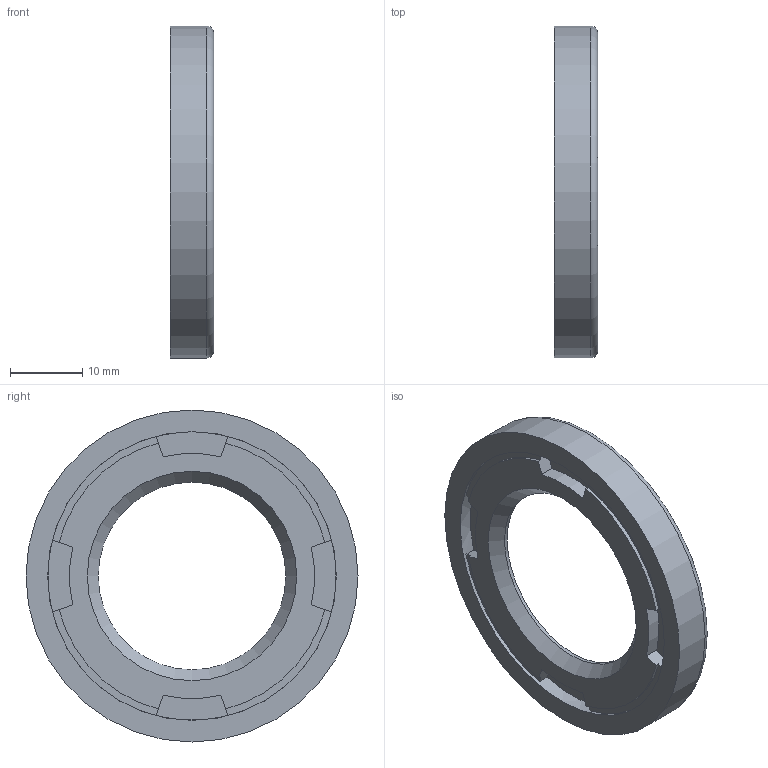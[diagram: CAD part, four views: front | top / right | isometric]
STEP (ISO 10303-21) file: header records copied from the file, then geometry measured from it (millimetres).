
FILE_DESCRIPTION(/* description */ (''),/* implementation_level */ '2;1');
FILE_NAME(/* name */ 'E:\Dropbox\Harjoitukset\Ignition coil\seal1.stp',/* time_stamp */ '2018-03-30T20:02:45+03:00',/* author */ ('Antti'),/* organization */ (''),/* preprocessor_version */ 'ST-DEVELOPER v17',/* originating_system */ 'Autodesk Inventor 2018',/* authorisation */ '');
FILE_SCHEMA (('AUTOMOTIVE_DESIGN { 1 0 10303 214 3 1 1 }'));
Length unit declared in the file: millimetre
Products named in the file (1): seal1
Bounding box: 6 x 46 x 46 mm (x, y, z)
Volume: 3934.1 mm3; surface area: 4020 mm2
Topology: 1 solids, 1 shells, 39 faces, 111 edges, 77 vertices
Faces by surface type: plane 21, cylinder 13, torus 4, cone 1
Full cylindrical faces by diameter (mm): 26 x1, 29 x1, 40 x1, 42 x1, 46 x1
Entity records: 1357 total; most frequent: DIRECTION 248, CARTESIAN_POINT 228, ORIENTED_EDGE 222, EDGE_CURVE 111, AXIS2_PLACEMENT_3D 97, VERTEX_POINT 77, CIRCLE 57, LINE 54
